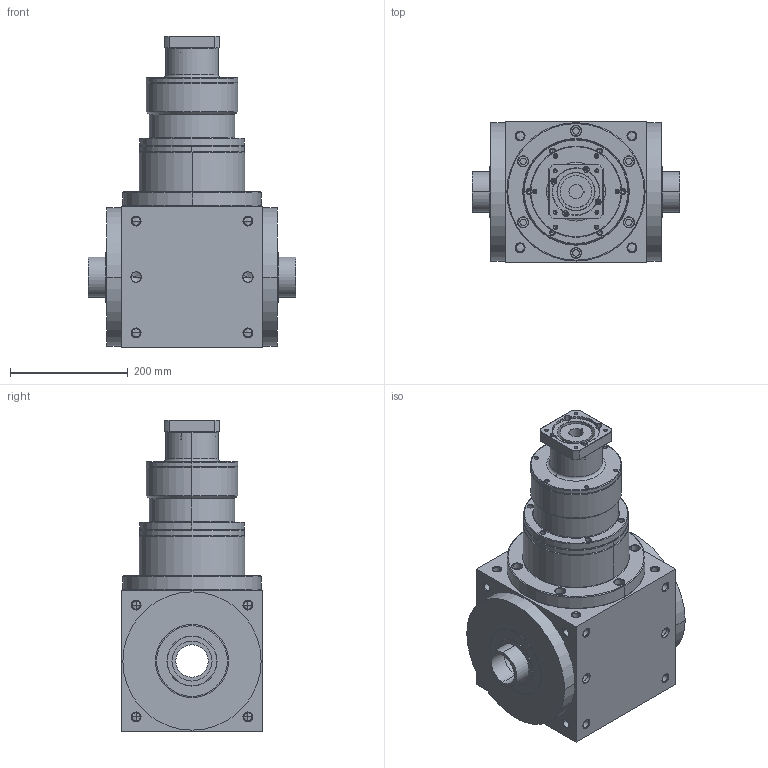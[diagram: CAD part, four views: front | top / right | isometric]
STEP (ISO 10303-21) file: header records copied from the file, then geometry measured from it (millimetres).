
FILE_DESCRIPTION((''),'2;1');
FILE_NAME('AT240FC3-P0405300303_ASM','2009-02-06T',('d00176'),(''),'PRO/ENGINEER BY PARAMETRIC TECHNOLOGY CORPORATION, 2006170','PRO/ENGINEER BY PARAMETRIC TECHNOLOGY CORPORATION, 2006170','');
FILE_SCHEMA(('CONFIG_CONTROL_DESIGN'));
Length unit declared in the file: millimetre
Products named in the file (6): ATFC-HOUSING-3-9; P1801900001; P0226900002; P0227900001; P0405300303; AT240FC3-P0405300303_ASM
Assembly tree (5 placements, depth 2):
  AT240FC3-P0405300303_ASM
    ATFC-HOUSING-3-9
    P1801900001
    P0226900002
    P0227900001
    P0405300303
Bounding box: 352 x 240 x 529 mm (x, y, z)
Volume: 18341139.4 mm3; surface area: 971756.1 mm2
Topology: 5 solids, 49 shells, 936 faces, 2260 edges, 1333 vertices
Faces by surface type: cylinder 392, cone 338, plane 126, torus 64, bspline 16
Entity records: 28366 total; most frequent: CARTESIAN_POINT 6394, DIRECTION 4970, ORIENTED_EDGE 4148, EDGE_CURVE 2162, AXIS2_PLACEMENT_3D 2085, VERTEX_POINT 1333, CIRCLE 1144, EDGE_LOOP 1121
